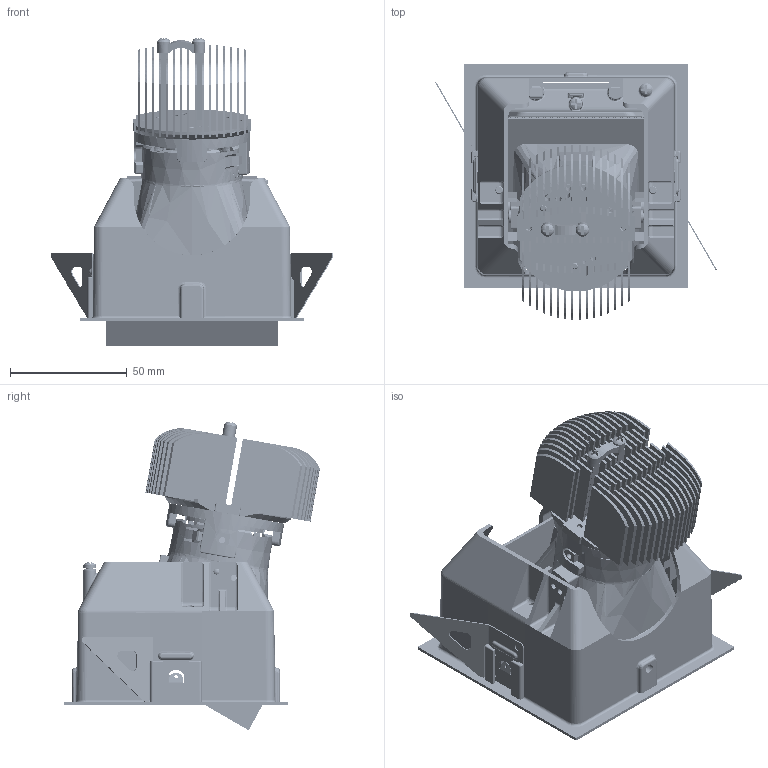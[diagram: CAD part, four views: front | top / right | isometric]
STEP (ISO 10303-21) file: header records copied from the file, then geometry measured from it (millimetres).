
FILE_DESCRIPTION(('CATIA V5 STEP Exchange'),'2;1');
FILE_NAME('C:\Users\stefano.giovinetto\Desktop\X.WP1CK - M PRO Wall Washer Square Trim Drop.stp','2020-10-29T07:47:25+00:00',('none'),('none'),'CATIA Version 5 Release 20 SP 7 (IN-10)','CATIA V5 STEP AP203','none');
FILE_SCHEMA(('CONFIG_CONTROL_DESIGN'));
Products named in the file (1): X.WP1CK_AllCATPart
Bounding box: 120.96 x 109.71 x 132.37 mm (x, y, z)
Volume: 143362.6 mm3; surface area: 182473.1 mm2
Topology: 38 solids, 60 shells, 9461 faces, 27121 edges, 17863 vertices
Faces by surface type: plane 6564, cylinder 2024, bspline 434, cone 194, torus 149, sphere 68, extrusion 24, revolution 4
Entity records: 354728 total; most frequent: CARTESIAN_POINT 117435, ORIENTED_EDGE 53853, DIRECTION 40701, EDGE_CURVE 27046, VECTOR 20019, LINE 19995, VERTEX_POINT 17857, AXIS2_PLACEMENT_3D 11713
